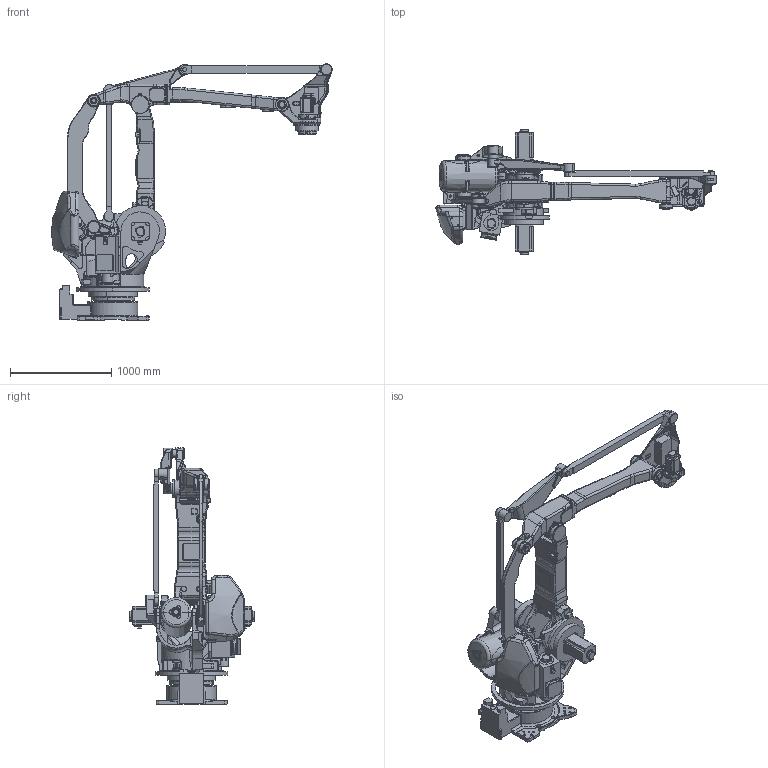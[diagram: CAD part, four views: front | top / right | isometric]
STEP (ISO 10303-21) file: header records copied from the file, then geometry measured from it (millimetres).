
FILE_DESCRIPTION(/* description */ (''),/* implementation_level */ '2;1');
FILE_NAME(/* name */ 'MPL300.stp',/* time_stamp */ '2010-08-06T08:38:17+02:00',/* author */ (''),/* organization */ (''),/* preprocessor_version */ 'ST-DEVELOPER v11',/* originating_system */ 'SIEMENS UGS NX 6.0',/* authorisation */ '');
FILE_SCHEMA (('AUTOMOTIVE_DESIGN { 1 0 10303 214 1 1 1 1 }'));
Products named in the file (1): MartBE86pwkt
Bounding box: 2769.75 x 1241 x 2533.65 mm (x, y, z)
Volume: 447078731.6 mm3; surface area: 15316159.2 mm2
Topology: 13 solids, 13 shells, 4125 faces, 10229 edges, 6255 vertices
Faces by surface type: cylinder 1578, plane 1234, bspline 556, torus 522, cone 184, sphere 51
Full cylindrical faces by diameter (mm): 40 x2, 120 x1
Entity records: 169331 total; most frequent: CARTESIAN_POINT 73553, ORIENTED_EDGE 20374, DIRECTION 20088, EDGE_CURVE 10187, AXIS2_PLACEMENT_3D 7904, VERTEX_POINT 6254, EDGE_LOOP 4425, LINE 4280
